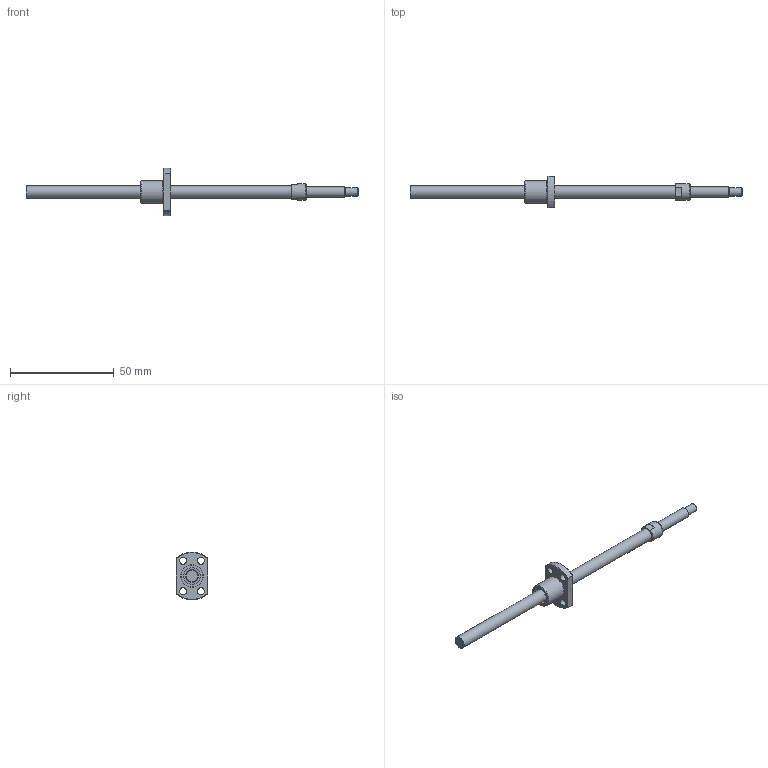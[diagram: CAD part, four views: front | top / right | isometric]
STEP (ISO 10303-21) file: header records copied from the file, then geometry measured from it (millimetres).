
FILE_DESCRIPTION(/* description */ ('STEP AP203'),/* implementation_level */ '2;1');
FILE_NAME(/* name */ 'BNK0601-3G0+160LC5Y(69.75)',/* time_stamp */ '2024-07-09T08:16:25+02:00',/* author */ ('License CC BY-ND 4.0'),/* organization */ ('CADENAS'),/* preprocessor_version */ 'ST-DEVELOPER v19.3',/* originating_system */ 'PARTsolutions',/* authorisation */ ' ');
FILE_SCHEMA (('CONFIG_CONTROL_DESIGN'));
Length unit declared in the file: millimetre
Products named in the file (3): BNK0601-3G0+160LC5Y(69.75); BNK 0601-3G0+160LC5Y Shaft; BNK 0601-3G0+160LC5Y Nut
Assembly tree (2 placements, depth 2):
  BNK0601-3G0+160LC5Y(69.75)
    BNK 0601-3G0+160LC5Y Shaft
    BNK 0601-3G0+160LC5Y Nut
Bounding box: 160 x 15 x 22.93 mm (x, y, z)
Volume: 5932.7 mm3; surface area: 4636.8 mm2
Topology: 2 solids, 2 shells, 42 faces, 87 edges, 56 vertices
Faces by surface type: plane 17, cylinder 15, cone 9, torus 1
Full cylindrical faces by diameter (mm): 3.4 x4, 4 x1, 5 x1, 6 x2, 8 x3, 10 x1, 11 x1
Entity records: 1125 total; most frequent: DIRECTION 192, CARTESIAN_POINT 191, ORIENTED_EDGE 134, AXIS2_PLACEMENT_3D 88, EDGE_LOOP 78, FACE_BOUND 78, EDGE_CURVE 67, VERTEX_POINT 55
